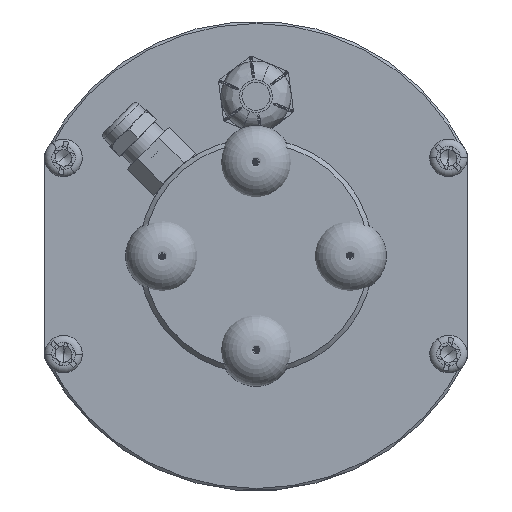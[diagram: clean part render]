
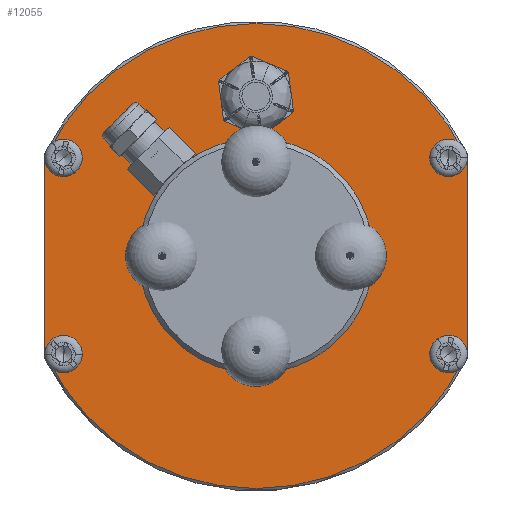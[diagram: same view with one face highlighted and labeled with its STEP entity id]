
A CAD part, left-side view. The second image highlights one B-rep face of the part: STEP entity #12055.
In plain terms, the highlighted planar face has unit normal (-1, 0, 0) as drawn and (0, 0, 1) by its records, which use the part's own axes.
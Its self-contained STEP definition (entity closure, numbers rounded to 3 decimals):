
#2198=CIRCLE('',#13334,2.25);
#2199=CIRCLE('',#13335,2.25);
#2200=CIRCLE('',#13336,2.25);
#2201=CIRCLE('',#13337,2.25);
#2202=CIRCLE('',#13338,23.5);
#2203=CIRCLE('',#13339,5.188);
#2204=CIRCLE('',#13340,49.5);
#3335=VERTEX_POINT('',#34866);
#3336=VERTEX_POINT('',#34868);
#3339=VERTEX_POINT('',#34880);
#3340=VERTEX_POINT('',#34882);
#3341=VERTEX_POINT('',#34884);
#3342=VERTEX_POINT('',#34886);
#3343=VERTEX_POINT('',#34888);
#3344=VERTEX_POINT('',#34890);
#3345=VERTEX_POINT('',#34892);
#3346=VERTEX_POINT('',#34894);
#4013=VECTOR('',#16294,1.);
#4015=VECTOR('',#16311,1.);
#4638=LINE('',#34867,#4013);
#4640=LINE('',#34893,#4015);
#6210=EDGE_CURVE('',#3336,#3335,#4638,.T.);
#6214=EDGE_CURVE('',#3339,#3339,#2198,.T.);
#6215=EDGE_CURVE('',#3340,#3340,#2199,.T.);
#6216=EDGE_CURVE('',#3341,#3341,#2200,.T.);
#6217=EDGE_CURVE('',#3342,#3342,#2201,.T.);
#6218=EDGE_CURVE('',#3343,#3343,#2202,.T.);
#6219=EDGE_CURVE('',#3344,#3344,#2203,.T.);
#6220=EDGE_CURVE('',#3345,#3335,#2204,.T.);
#6221=EDGE_CURVE('',#3345,#3346,#4640,.T.);
#6222=EDGE_CURVE('',#3336,#3346,#2204,.T.);
#9409=ORIENTED_EDGE('',*,*,#6214,.T.);
#9410=ORIENTED_EDGE('',*,*,#6215,.T.);
#9411=ORIENTED_EDGE('',*,*,#6216,.T.);
#9412=ORIENTED_EDGE('',*,*,#6217,.T.);
#9413=ORIENTED_EDGE('',*,*,#6218,.T.);
#9414=ORIENTED_EDGE('',*,*,#6219,.T.);
#9415=ORIENTED_EDGE('',*,*,#6210,.T.);
#9416=ORIENTED_EDGE('',*,*,#6220,.F.);
#9417=ORIENTED_EDGE('',*,*,#6221,.T.);
#9418=ORIENTED_EDGE('',*,*,#6222,.F.);
#10368=EDGE_LOOP('',(#9409));
#10369=EDGE_LOOP('',(#9410));
#10370=EDGE_LOOP('',(#9411));
#10371=EDGE_LOOP('',(#9412));
#10372=EDGE_LOOP('',(#9413));
#10373=EDGE_LOOP('',(#9414));
#10374=EDGE_LOOP('',(#9415,#9416,#9417,#9418));
#11306=FACE_BOUND('',#10368,.T.);
#11307=FACE_BOUND('',#10369,.T.);
#11308=FACE_BOUND('',#10370,.T.);
#11309=FACE_BOUND('',#10371,.T.);
#11310=FACE_BOUND('',#10372,.T.);
#11311=FACE_BOUND('',#10373,.T.);
#11312=FACE_BOUND('',#10374,.T.);
#12055=ADVANCED_FACE('',(#11306,#11307,#11308,#11309,#11310,#11311,#11312),
#35309,.T.);
#13333=AXIS2_PLACEMENT_3D('',#34878,#16296,$);
#13334=AXIS2_PLACEMENT_3D('',#34879,#16297,#16298);
#13335=AXIS2_PLACEMENT_3D('',#34881,#16299,#16300);
#13336=AXIS2_PLACEMENT_3D('',#34883,#16301,#16302);
#13337=AXIS2_PLACEMENT_3D('',#34885,#16303,#16304);
#13338=AXIS2_PLACEMENT_3D('',#34887,#16305,#16306);
#13339=AXIS2_PLACEMENT_3D('',#34889,#16307,#16308);
#13340=AXIS2_PLACEMENT_3D('',#34891,#16309,#16310);
#16294=DIRECTION('',(1.,0.,0.));
#16296=DIRECTION('',(0.,0.,1.));
#16297=DIRECTION('',(0.,0.,-1.));
#16298=DIRECTION('',(0.,2.25,0.));
#16299=DIRECTION('',(0.,0.,-1.));
#16300=DIRECTION('',(0.,2.25,0.));
#16301=DIRECTION('',(0.,0.,-1.));
#16302=DIRECTION('',(0.,2.25,0.));
#16303=DIRECTION('',(0.,0.,-1.));
#16304=DIRECTION('',(0.,2.25,0.));
#16305=DIRECTION('',(0.,0.,-1.));
#16306=DIRECTION('',(23.5,0.,0.));
#16307=DIRECTION('',(0.,0.,-1.));
#16308=DIRECTION('',(0.,5.188,0.));
#16309=DIRECTION('',(0.,0.,-1.));
#16310=DIRECTION('',(-49.5,0.,0.));
#16311=DIRECTION('',(-1.,0.,0.));
#34866=CARTESIAN_POINT('',(20.622,-45.,9.));
#34867=CARTESIAN_POINT('',(0.707,-45.,9.));
#34868=CARTESIAN_POINT('',(-20.622,-45.,9.));
#34878=CARTESIAN_POINT('',(0.,0.,9.));
#34879=CARTESIAN_POINT('',(20.884,-40.986,9.));
#34880=CARTESIAN_POINT('',(20.884,-38.736,9.));
#34881=CARTESIAN_POINT('',(-20.884,-40.986,9.));
#34882=CARTESIAN_POINT('',(-20.884,-38.736,9.));
#34883=CARTESIAN_POINT('',(-20.884,40.986,9.));
#34884=CARTESIAN_POINT('',(-20.884,43.236,9.));
#34885=CARTESIAN_POINT('',(20.884,40.986,9.));
#34886=CARTESIAN_POINT('',(20.884,43.236,9.));
#34887=CARTESIAN_POINT('',(0.,0.,9.));
#34888=CARTESIAN_POINT('',(23.5,0.,9.));
#34889=CARTESIAN_POINT('',(34.,0.,9.));
#34890=CARTESIAN_POINT('',(34.,5.188,9.));
#34891=CARTESIAN_POINT('',(0.,0.,9.));
#34892=CARTESIAN_POINT('',(20.622,45.,9.));
#34893=CARTESIAN_POINT('',(0.707,45.,9.));
#34894=CARTESIAN_POINT('',(-20.622,45.,9.));
#35309=PLANE('',#13333);
